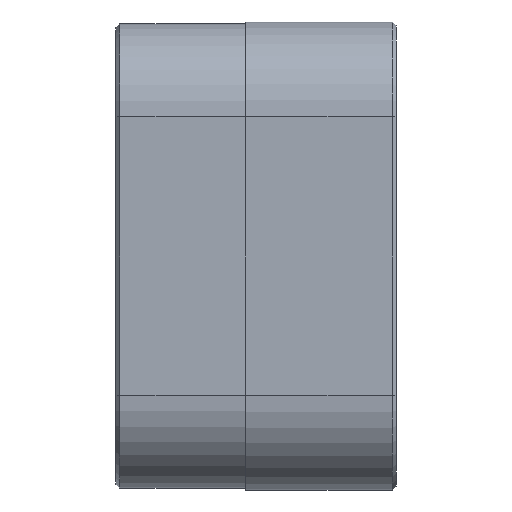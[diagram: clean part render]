
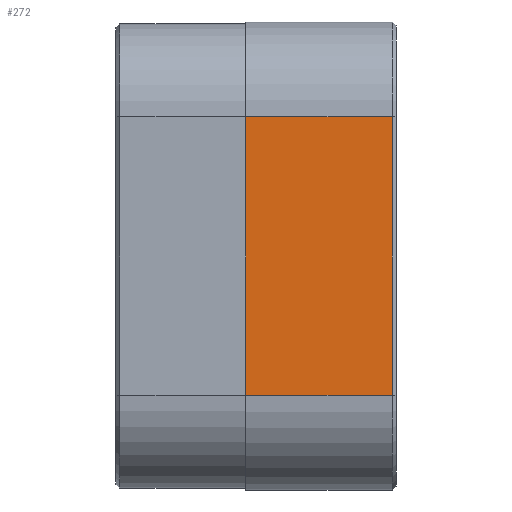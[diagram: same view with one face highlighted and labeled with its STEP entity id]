
A CAD part, left-side view. The second image highlights one B-rep face of the part: STEP entity #272.
In plain terms, the highlighted planar face has unit normal (-1, 0, 0).
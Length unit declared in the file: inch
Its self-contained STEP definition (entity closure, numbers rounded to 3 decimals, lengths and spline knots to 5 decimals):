
#155 = ORIENTED_EDGE ( 'NONE', *, *, #277, .T. ) ;
#167 = EDGE_CURVE ( 'NONE', #270, #301, #1244, .T. ) ;
#189 = EDGE_CURVE ( 'NONE', #270, #296, #1240, .T. ) ;
#267 = ORIENTED_EDGE ( 'NONE', *, *, #167, .T. ) ;
#270 = VERTEX_POINT ( 'NONE', #1437 ) ;
#272 = ADVANCED_FACE ( 'NONE', ( #1329 ), #1438, .F. ) ;
#274 = ORIENTED_EDGE ( 'NONE', *, *, #189, .F. ) ;
#277 = EDGE_CURVE ( 'NONE', #301, #289, #1332, .T. ) ;
#286 = EDGE_CURVE ( 'NONE', #289, #296, #1293, .T. ) ;
#287 = EDGE_LOOP ( 'NONE', ( #267, #155, #288, #274 ) ) ;
#288 = ORIENTED_EDGE ( 'NONE', *, *, #286, .T. ) ;
#289 = VERTEX_POINT ( 'NONE', #1294 ) ;
#296 = VERTEX_POINT ( 'NONE', #1626 ) ;
#301 = VERTEX_POINT ( 'NONE', #1629 ) ;
#1201 = VECTOR ( 'NONE', #1218, 39.37008 ) ;
#1218 = DIRECTION ( 'NONE',  ( 0., 0., 1. ) ) ;
#1219 = CARTESIAN_POINT ( 'NONE',  ( -1.995, 0.8, -1.245 ) ) ;
#1230 = VECTOR ( 'NONE', #1236, 39.37008 ) ;
#1231 = CARTESIAN_POINT ( 'NONE',  ( -1.995, 1.49, -0.74 ) ) ;
#1236 = DIRECTION ( 'NONE',  ( 0., -1., 0. ) ) ;
#1240 = LINE ( 'NONE', #1219, #1201 ) ;
#1244 = LINE ( 'NONE', #1231, #1230 ) ;
#1287 = DIRECTION ( 'NONE',  ( 0., 1., 0. ) ) ;
#1288 = VECTOR ( 'NONE', #1287, 39.37008 ) ;
#1289 = CARTESIAN_POINT ( 'NONE',  ( -1.995, 1.49, 0.74 ) ) ;
#1293 = LINE ( 'NONE', #1289, #1288 ) ;
#1294 = CARTESIAN_POINT ( 'NONE',  ( -1.995, 0.02, 0.74 ) ) ;
#1326 = CARTESIAN_POINT ( 'NONE',  ( -1.995, 1.49, -1.245 ) ) ;
#1329 = FACE_OUTER_BOUND ( 'NONE', #287, .T. ) ;
#1330 = VECTOR ( 'NONE', #1388, 39.37008 ) ;
#1331 = CARTESIAN_POINT ( 'NONE',  ( -1.995, 0.02, 0.74 ) ) ;
#1332 = LINE ( 'NONE', #1331, #1330 ) ;
#1351 = DIRECTION ( 'NONE',  ( 1., 0., 0. ) ) ;
#1388 = DIRECTION ( 'NONE',  ( 0., 0., 1. ) ) ;
#1395 = DIRECTION ( 'NONE',  ( 0., 0., -1. ) ) ;
#1434 = AXIS2_PLACEMENT_3D ( 'NONE', #1326, #1351, #1395 ) ;
#1437 = CARTESIAN_POINT ( 'NONE',  ( -1.995, 0.8, -0.74 ) ) ;
#1438 = PLANE ( 'NONE',  #1434 ) ;
#1626 = CARTESIAN_POINT ( 'NONE',  ( -1.995, 0.8, 0.74 ) ) ;
#1629 = CARTESIAN_POINT ( 'NONE',  ( -1.995, 0.02, -0.74 ) ) ;
